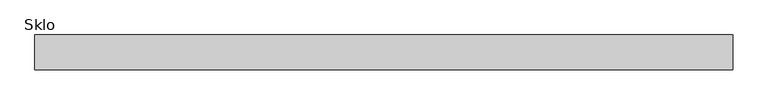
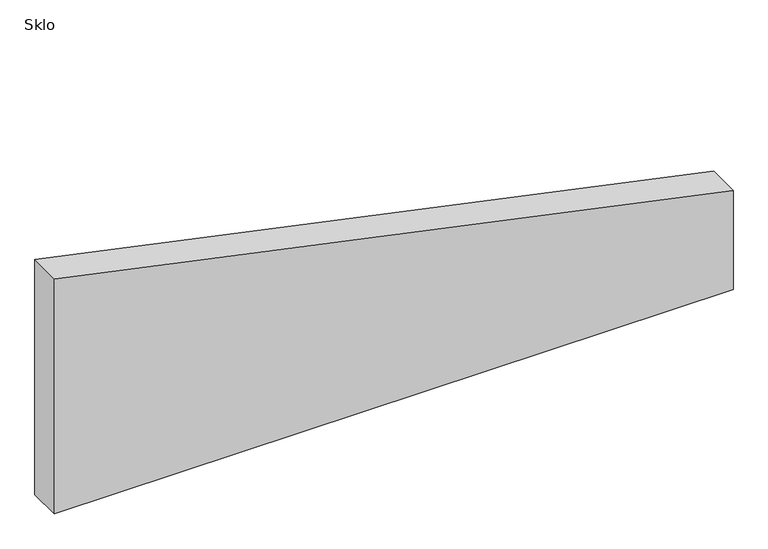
"""IFC4 building model written with IfcOpenShell, lengths in millimetres: plate geometry, Systémový panel : Sklo."""

from ifc_helpers import new_model, si_unit, frame, origin, place, context, project, spatial, polyline, outline, extrude, source, transform, mapped, element, save


def sklo_6f6820dd(model_context):
    return source(origin(), model_context, "Body", "SweptSolid", [
        extrude(outline(polyline([(0.0, -1000.0), (0.0, 1000.0), (308.4038465, 1000.0), (733.5169698, -1000.0), (0.0, -1000.0)])), frame((0.0, 50.0, 0.0), z_axis=(0.0, 1.0, 0.0), x_axis=(0.0, 0.0, 1.0)), (0.0, 0.0, 1.0), 100.0),
    ])


if __name__ == "__main__":
    model = new_model("IFC4")
    model_context = context("Model", 3, world=origin())
    ifc_project = project(units=[si_unit("LENGTHUNIT", "METRE", prefix="MILLI")], contexts=[model_context])
    site = spatial("IfcSite", under=ifc_project)
    building = spatial("IfcBuilding", under=site)
    placement = place(None, origin())
    sklo_shape = sklo_6f6820dd(model_context)
    element("IfcPlate", 1, ObjectType="Systémový panel : Sklo", at=placement, inside=building, context=model_context, shape_type="MappedRepresentation", body=[
        mapped(sklo_shape, transform((0.0, 0.0, 0.0), x_axis=(1.0, 0.0, 0.0), y_axis=(0.0, 1.0, 0.0), z_axis=(0.0, 0.0, 1.0))),
    ])
    save(model, "model.ifc")
